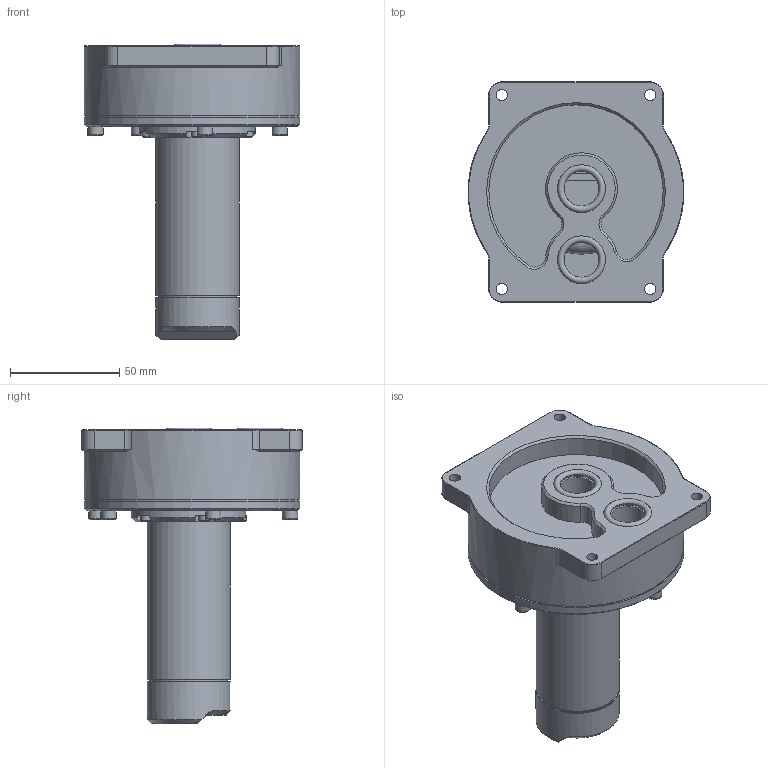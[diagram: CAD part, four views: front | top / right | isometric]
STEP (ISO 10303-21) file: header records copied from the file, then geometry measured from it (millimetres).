
FILE_DESCRIPTION (( 'STEP AP214' ), '1' );
FILE_NAME ('M3000M.STEP', '2019-09-02T15:46:33', ( '' ), ( '' ), 'SwSTEP 2.0', 'SolidWorks 2016', '' );
FILE_SCHEMA (( 'AUTOMOTIVE_DESIGN' ));
Length unit declared in the file: millimetre
Products named in the file (13): M3000M; P-0260_GB_FASTENER_SCREWS_HSHCS M3X16-C; P-1142; P-1070_One Hole; M3000M_CONNECTOR; P-1263; P-1144; P-0119_M3x12 Socket Head Screw; E36DS-01; P-0836_M4x35 Socket Head Screw; P-1060; E36DS_CONNECTOR; P-1262
Assembly tree (23 placements, depth 5):
  M3000M
    M3000M_CONNECTOR
      P-1060
      P-0836_M4x35 Socket Head Screw  x6
      E36DS_CONNECTOR
        P-0119_M3x12 Socket Head Screw  x5
        P-1070_One Hole
        E36DS-01
          P-1144
        P-1142
        P-0260_GB_FASTENER_SCREWS_HSHCS M3X16-C  x2
    P-1262
    P-1263  x2
Bounding box: 99 x 101 x 135.65 mm (x, y, z)
Volume: 224243.7 mm3; surface area: 93077 mm2
Topology: 20 solids, 20 shells, 580 faces, 1319 edges, 814 vertices
Faces by surface type: plane 332, cylinder 123, cone 100, torus 17, bspline 8
Full cylindrical faces by diameter (mm): 2.5 x7, 3 x7, 3.2 x5, 3.3 x6, 3.4 x2, 4 x6, 4.4 x6, 5.2 x4, 5.5 x7, 6.5 x2, 7 x6, 16 x4, 17.5 x1, 19.9 x1, 22 x2, 33 x1, 34 x1, 35.65 x1, 35.85 x1, 36 x1, 38.2 x1, 38.25 x1, 42 x1, 44 x1, 53 x1, 53.5 x1, 60 x1, 80 x1, 85.6 x1, 98 x1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
Entity records: 12095 total; most frequent: CARTESIAN_POINT 2518, DIRECTION 1790, ORIENTED_EDGE 1490, EDGE_CURVE 745, AXIS2_PLACEMENT_3D 702, EDGE_LOOP 559, VERTEX_POINT 522, FACE_OUTER_BOUND 442
